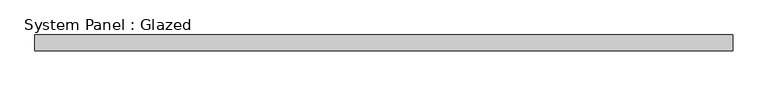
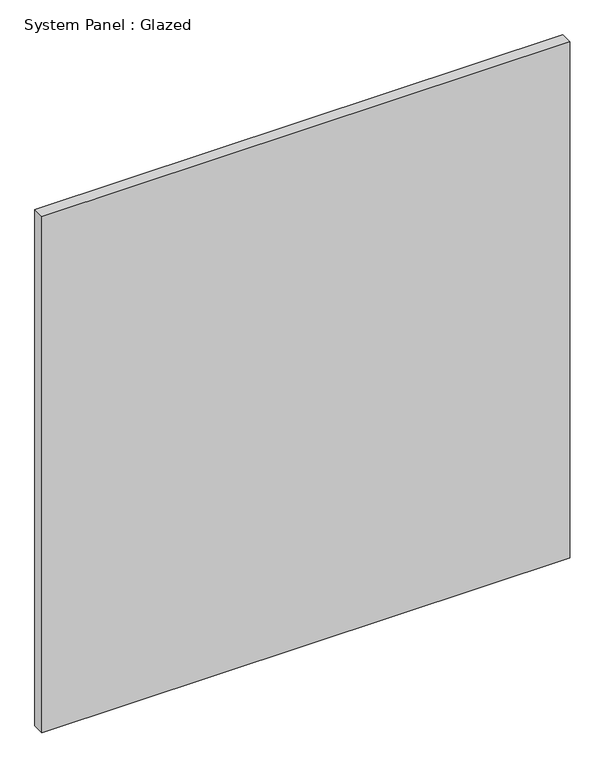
"""IFC4 building model written with IfcOpenShell, lengths in millimetres: plate geometry, System Panel : Glazed."""

from ifc_helpers import new_model, si_unit, origin, origin_with_axes, place, context, project, spatial, polyline, outline, extrude, source, transform, mapped, element, save


def system_panel_glazed_f3d9826d(model_context):
    return source(origin(), model_context, "Body", "SweptSolid", [
        extrude(outline(polyline([(558.8, -44.45), (-558.8, -44.45), (-558.8, -19.05), (558.8, -19.05), (558.8, -44.45)])), origin_with_axes(), (0.0, 0.0, 1.0), 1155.7),
    ])


if __name__ == "__main__":
    model = new_model("IFC4")
    model_context = context("Model", 3, world=origin())
    ifc_project = project(units=[si_unit("LENGTHUNIT", "METRE", prefix="MILLI")], contexts=[model_context])
    site = spatial("IfcSite", under=ifc_project)
    building = spatial("IfcBuilding", under=site)
    placement = place(None, origin())
    system_panel_glazed_shape = system_panel_glazed_f3d9826d(model_context)
    element("IfcPlate", 1, ObjectType="System Panel : Glazed", at=placement, inside=building, context=model_context, shape_type="MappedRepresentation", body=[
        mapped(system_panel_glazed_shape, transform((0.0, 0.0, 0.0), x_axis=(1.0, 0.0, 0.0), y_axis=(0.0, 1.0, 0.0), z_axis=(0.0, 0.0, 1.0))),
    ])
    save(model, "model.ifc")
